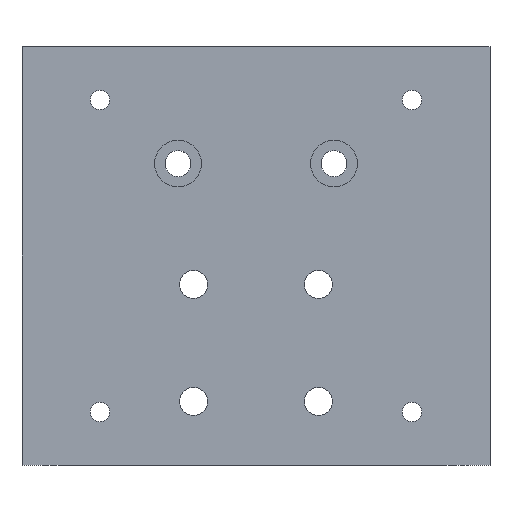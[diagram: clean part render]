
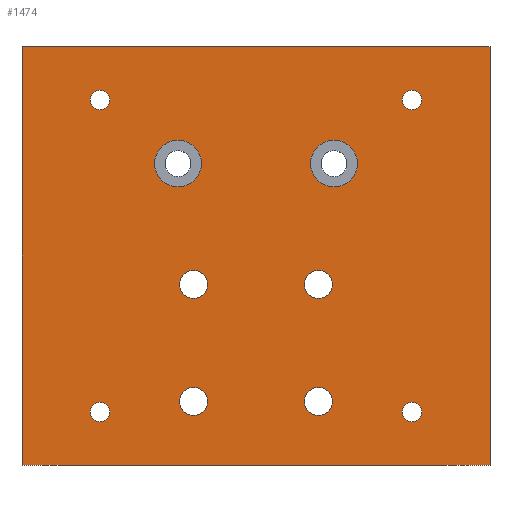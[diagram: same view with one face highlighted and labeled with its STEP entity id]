
A CAD part, front view. The second image highlights one B-rep face of the part: STEP entity #1474.
In plain terms, the highlighted planar face has unit normal (0, -1, 0).
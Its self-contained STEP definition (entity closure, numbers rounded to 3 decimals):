
#83=FACE_BOUND('',#233,.T.);
#84=FACE_BOUND('',#234,.T.);
#85=FACE_BOUND('',#235,.T.);
#86=FACE_BOUND('',#236,.T.);
#87=FACE_BOUND('',#237,.T.);
#88=FACE_BOUND('',#238,.T.);
#89=FACE_BOUND('',#239,.T.);
#90=FACE_BOUND('',#240,.T.);
#91=FACE_BOUND('',#241,.T.);
#92=FACE_BOUND('',#242,.T.);
#109=CIRCLE('',#1569,1.8);
#110=CIRCLE('',#1570,1.8);
#111=CIRCLE('',#1571,1.25);
#112=CIRCLE('',#1572,1.25);
#113=CIRCLE('',#1573,1.25);
#114=CIRCLE('',#1574,1.25);
#115=CIRCLE('',#1575,3.);
#116=CIRCLE('',#1576,3.);
#117=CIRCLE('',#1577,1.8);
#118=CIRCLE('',#1578,1.8);
#152=FACE_OUTER_BOUND('',#232,.T.);
#232=EDGE_LOOP('',(#992,#993,#994,#995));
#233=EDGE_LOOP('',(#996));
#234=EDGE_LOOP('',(#997));
#235=EDGE_LOOP('',(#998));
#236=EDGE_LOOP('',(#999));
#237=EDGE_LOOP('',(#1000));
#238=EDGE_LOOP('',(#1001));
#239=EDGE_LOOP('',(#1002));
#240=EDGE_LOOP('',(#1003));
#241=EDGE_LOOP('',(#1004));
#242=EDGE_LOOP('',(#1005));
#338=LINE('',#2039,#482);
#339=LINE('',#2041,#483);
#340=LINE('',#2043,#484);
#341=LINE('',#2044,#485);
#482=VECTOR('',#1679,10.);
#483=VECTOR('',#1680,10.);
#484=VECTOR('',#1681,10.);
#485=VECTOR('',#1682,10.);
#626=VERTEX_POINT('',#2037);
#627=VERTEX_POINT('',#2038);
#628=VERTEX_POINT('',#2040);
#629=VERTEX_POINT('',#2042);
#630=VERTEX_POINT('',#2045);
#631=VERTEX_POINT('',#2047);
#632=VERTEX_POINT('',#2049);
#633=VERTEX_POINT('',#2051);
#634=VERTEX_POINT('',#2053);
#635=VERTEX_POINT('',#2055);
#636=VERTEX_POINT('',#2057);
#637=VERTEX_POINT('',#2059);
#638=VERTEX_POINT('',#2061);
#639=VERTEX_POINT('',#2063);
#773=EDGE_CURVE('',#626,#627,#338,.F.);
#774=EDGE_CURVE('',#627,#628,#339,.F.);
#775=EDGE_CURVE('',#628,#629,#340,.F.);
#776=EDGE_CURVE('',#626,#629,#341,.T.);
#777=EDGE_CURVE('',#630,#630,#109,.T.);
#778=EDGE_CURVE('',#631,#631,#110,.T.);
#779=EDGE_CURVE('',#632,#632,#111,.T.);
#780=EDGE_CURVE('',#633,#633,#112,.T.);
#781=EDGE_CURVE('',#634,#634,#113,.T.);
#782=EDGE_CURVE('',#635,#635,#114,.T.);
#783=EDGE_CURVE('',#636,#636,#115,.T.);
#784=EDGE_CURVE('',#637,#637,#116,.T.);
#785=EDGE_CURVE('',#638,#638,#117,.T.);
#786=EDGE_CURVE('',#639,#639,#118,.T.);
#992=ORIENTED_EDGE('',*,*,#773,.T.);
#993=ORIENTED_EDGE('',*,*,#774,.T.);
#994=ORIENTED_EDGE('',*,*,#775,.T.);
#995=ORIENTED_EDGE('',*,*,#776,.F.);
#996=ORIENTED_EDGE('',*,*,#777,.F.);
#997=ORIENTED_EDGE('',*,*,#778,.F.);
#998=ORIENTED_EDGE('',*,*,#779,.T.);
#999=ORIENTED_EDGE('',*,*,#780,.T.);
#1000=ORIENTED_EDGE('',*,*,#781,.T.);
#1001=ORIENTED_EDGE('',*,*,#782,.T.);
#1002=ORIENTED_EDGE('',*,*,#783,.T.);
#1003=ORIENTED_EDGE('',*,*,#784,.T.);
#1004=ORIENTED_EDGE('',*,*,#785,.F.);
#1005=ORIENTED_EDGE('',*,*,#786,.F.);
#1430=PLANE('',#1568);
#1474=ADVANCED_FACE('',(#152,#83,#84,#85,#86,#87,#88,#89,#90,#91,#92),#1430,
 .F.);
#1568=AXIS2_PLACEMENT_3D('',#2036,#1677,#1678);
#1569=AXIS2_PLACEMENT_3D('',#2046,#1683,#1684);
#1570=AXIS2_PLACEMENT_3D('',#2048,#1685,#1686);
#1571=AXIS2_PLACEMENT_3D('',#2050,#1687,#1688);
#1572=AXIS2_PLACEMENT_3D('',#2052,#1689,#1690);
#1573=AXIS2_PLACEMENT_3D('',#2054,#1691,#1692);
#1574=AXIS2_PLACEMENT_3D('',#2056,#1693,#1694);
#1575=AXIS2_PLACEMENT_3D('',#2058,#1695,#1696);
#1576=AXIS2_PLACEMENT_3D('',#2060,#1697,#1698);
#1577=AXIS2_PLACEMENT_3D('',#2062,#1699,#1700);
#1578=AXIS2_PLACEMENT_3D('',#2064,#1701,#1702);
#1677=DIRECTION('center_axis',(0.,1.,0.));
#1678=DIRECTION('ref_axis',(1.,0.,0.));
#1679=DIRECTION('',(0.,0.,-1.));
#1680=DIRECTION('',(1.,0.,0.));
#1681=DIRECTION('',(0.,0.,1.));
#1682=DIRECTION('',(-1.,0.,0.));
#1683=DIRECTION('center_axis',(0.,-1.,0.));
#1684=DIRECTION('ref_axis',(1.,0.,0.));
#1685=DIRECTION('center_axis',(0.,-1.,0.));
#1686=DIRECTION('ref_axis',(1.,0.,0.));
#1687=DIRECTION('center_axis',(0.,1.,0.));
#1688=DIRECTION('ref_axis',(1.,0.,0.));
#1689=DIRECTION('center_axis',(0.,1.,0.));
#1690=DIRECTION('ref_axis',(1.,0.,0.));
#1691=DIRECTION('center_axis',(0.,1.,0.));
#1692=DIRECTION('ref_axis',(1.,0.,0.));
#1693=DIRECTION('center_axis',(0.,1.,0.));
#1694=DIRECTION('ref_axis',(1.,0.,0.));
#1695=DIRECTION('center_axis',(0.,1.,0.));
#1696=DIRECTION('ref_axis',(1.,0.,0.));
#1697=DIRECTION('center_axis',(0.,1.,0.));
#1698=DIRECTION('ref_axis',(1.,0.,0.));
#1699=DIRECTION('center_axis',(0.,-1.,0.));
#1700=DIRECTION('ref_axis',(1.,0.,0.));
#1701=DIRECTION('center_axis',(0.,-1.,0.));
#1702=DIRECTION('ref_axis',(1.,0.,0.));
#2036=CARTESIAN_POINT('Origin',(-254.579,-9.8,-150.397));
#2037=CARTESIAN_POINT('',(-224.579,-9.8,-178.247));
#2038=CARTESIAN_POINT('',(-224.579,-9.8,-124.547));
#2039=CARTESIAN_POINT('',(-224.579,-9.8,-161.322));
#2040=CARTESIAN_POINT('',(-284.579,-9.8,-124.547));
#2041=CARTESIAN_POINT('',(-239.579,-9.8,-124.547));
#2042=CARTESIAN_POINT('',(-284.579,-9.8,-178.247));
#2043=CARTESIAN_POINT('',(-284.579,-9.8,-139.472));
#2044=CARTESIAN_POINT('',(-269.579,-9.8,-178.247));
#2045=CARTESIAN_POINT('',(-248.379,-9.8,-170.047));
#2046=CARTESIAN_POINT('Origin',(-246.579,-9.8,-170.047));
#2047=CARTESIAN_POINT('',(-264.379,-9.8,-155.047));
#2048=CARTESIAN_POINT('Origin',(-262.579,-9.8,-155.047));
#2049=CARTESIAN_POINT('',(-235.829,-9.8,-131.397));
#2050=CARTESIAN_POINT('Origin',(-234.579,-9.8,-131.397));
#2051=CARTESIAN_POINT('',(-235.829,-9.8,-171.397));
#2052=CARTESIAN_POINT('Origin',(-234.579,-9.8,-171.397));
#2053=CARTESIAN_POINT('',(-275.829,-9.8,-131.397));
#2054=CARTESIAN_POINT('Origin',(-274.579,-9.8,-131.397));
#2055=CARTESIAN_POINT('',(-275.829,-9.8,-171.397));
#2056=CARTESIAN_POINT('Origin',(-274.579,-9.8,-171.397));
#2057=CARTESIAN_POINT('',(-267.579,-9.8,-139.547));
#2058=CARTESIAN_POINT('Origin',(-264.579,-9.8,-139.547));
#2059=CARTESIAN_POINT('',(-247.579,-9.8,-139.547));
#2060=CARTESIAN_POINT('Origin',(-244.579,-9.8,-139.547));
#2061=CARTESIAN_POINT('',(-248.379,-9.8,-155.047));
#2062=CARTESIAN_POINT('Origin',(-246.579,-9.8,-155.047));
#2063=CARTESIAN_POINT('',(-264.379,-9.8,-170.047));
#2064=CARTESIAN_POINT('Origin',(-262.579,-9.8,-170.047));
